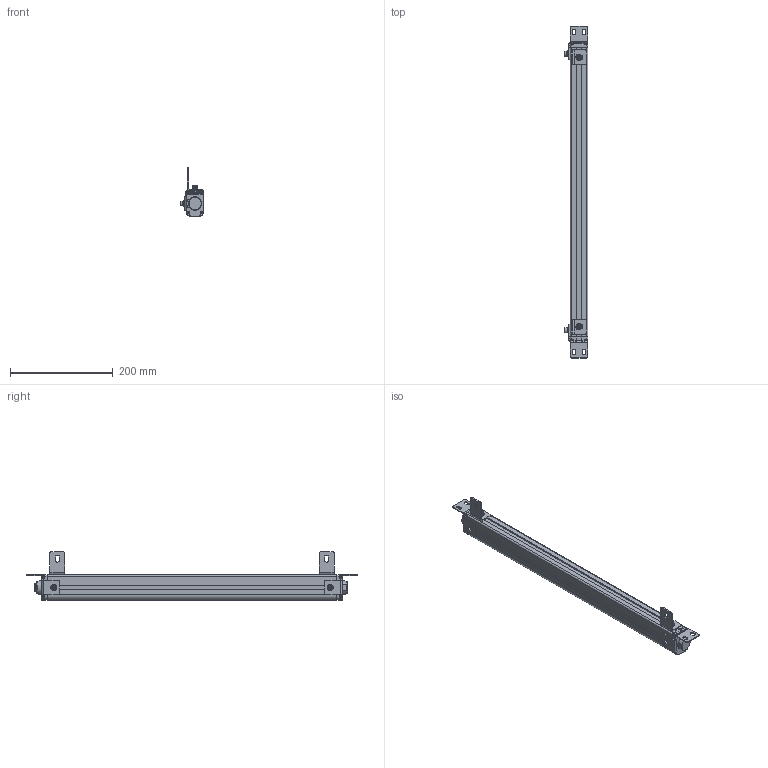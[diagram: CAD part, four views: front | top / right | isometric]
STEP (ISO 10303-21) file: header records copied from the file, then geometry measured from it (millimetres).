
FILE_DESCRIPTION((''),'2;1');
FILE_NAME('ESN--000_ASM','2021-08-11T16:04:11',('18720616900'),(''),'CREO PARAMETRIC BY PTC INC, 2019010','CREO PARAMETRIC BY PTC INC, 2019010','');
FILE_SCHEMA(('CONFIG_CONTROL_DESIGN'));
Length unit declared in the file: millimetre
Products named in the file (22): 00; 000; _0001; 4000; 4--0001; ESN_40001_ASM; L10001; M6-8--0001; M6-1--00; M6-1-00; M6-80001_ASM; L1--0001_ASM; _0002; 0005; ST-3-120001; H1--000; H1--0001_ASM; H1--0003_ASM; ESN--000_ASM
Assembly tree (34 placements, depth 4):
  ESN--000_ASM
    00
    000
    _0001
    000
    ESN_40001_ASM
      4000
      4--0001  x4
    L1--0001_ASM  x2
      L10001
      M6-80001_ASM
        M6-8--0001
        M6-1--00
        M6-1-00
        00
    _0002
    0005
    ST-3-120001  x8
    H1--0001_ASM
      H1--000
      M6-80001_ASM
        M6-8--0001
        M6-1--00
        M6-1-00
        00
    H1--0003_ASM
      H1--000
      M6-80001_ASM
        M6-8--0001
        M6-1--00
        M6-1-00
        00
Bounding box: 46.5 x 647 x 94.95 mm (x, y, z)
Volume: 903941.4 mm3; surface area: 206442.5 mm2
Topology: 39 solids, 39 shells, 1727 faces, 4555 edges, 2925 vertices
Faces by surface type: plane 541, cylinder 404, bspline 362, cone 291, torus 105, sphere 24
Entity records: 45714 total; most frequent: CARTESIAN_POINT 24222, ORIENTED_EDGE 4766, DIRECTION 3842, EDGE_CURVE 2383, VERTEX_POINT 1546, AXIS2_PLACEMENT_3D 1400, VECTOR 1042, LINE 1042
